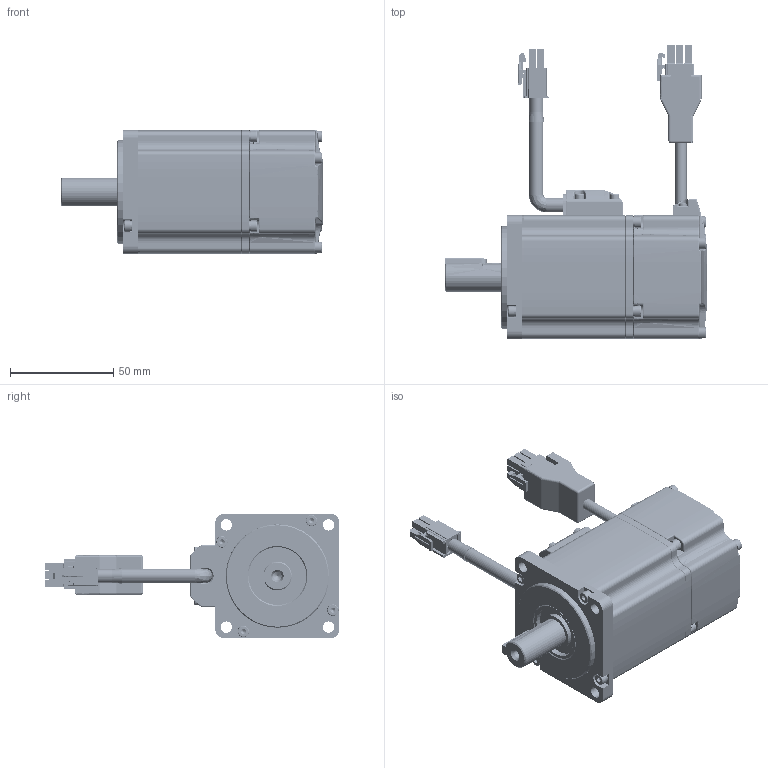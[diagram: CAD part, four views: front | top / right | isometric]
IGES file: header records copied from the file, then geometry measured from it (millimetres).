
Start section: SolidWorks IGES file using analytic representation for surfaces
Bounding box: 126.5 x 142.7 x 60 mm (x, y, z)
Surface area: 94474.2 mm2 (no closed solid volume)
Topology: 0 solids, 0 shells, 2505 faces, 26468 edges, 26353 vertices
Faces by surface type: bspline 1449, revolution 1056
